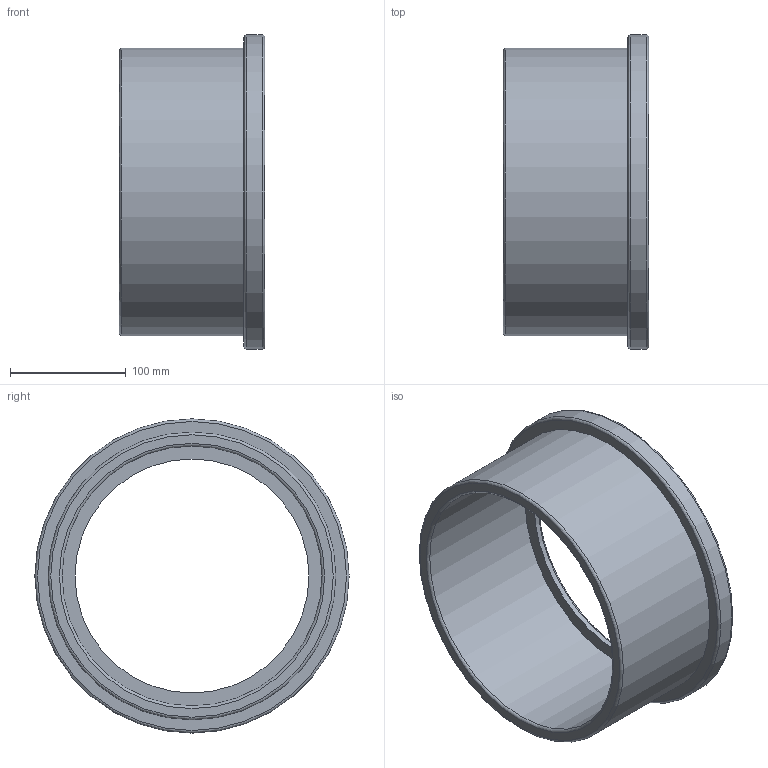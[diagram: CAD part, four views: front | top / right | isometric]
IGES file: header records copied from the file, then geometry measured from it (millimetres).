
Global section: file name: 055100225.ipt; native system: Autodesk Inventor 2015; preprocessor: unknown; author: KIM; date: 20180927.115440; units: millimetre
Bounding box: 126 x 272 x 272 mm (x, y, z)
Volume: 1343896.1 mm3; surface area: 236530.5 mm2
Topology: 1 solids, 1 shells, 13 faces, 36 edges, 27 vertices
Faces by surface type: revolution 7, plane 4, cylinder 2
Full cylindrical faces by diameter (mm): 249 x1, 272 x1
